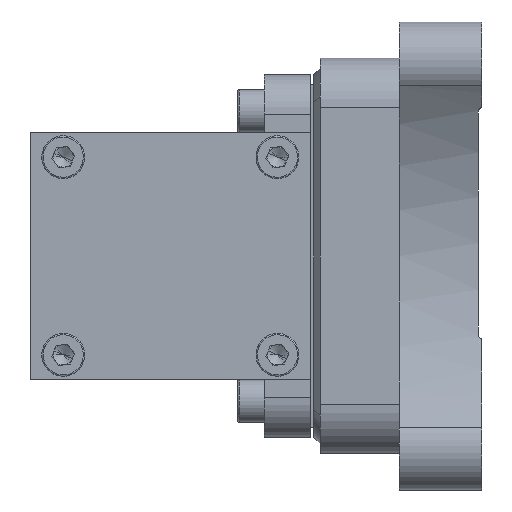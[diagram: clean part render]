
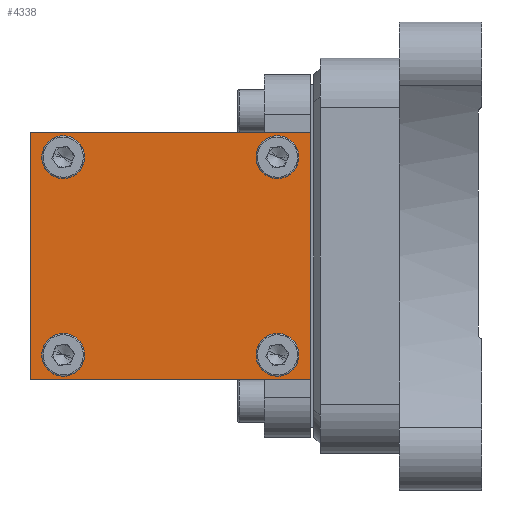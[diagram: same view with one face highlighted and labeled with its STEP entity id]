
A CAD part, left-side view. The second image highlights one B-rep face of the part: STEP entity #4338.
In plain terms, the highlighted planar face has unit normal (-1, 0, 0) as drawn and (1, 0, 0) by its records, which use the part's own axes.
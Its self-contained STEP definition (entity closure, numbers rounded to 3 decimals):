
#39 = VECTOR ( 'NONE', #5715, 1000. ) ;
#42 = ORIENTED_EDGE ( 'NONE', *, *, #2448, .F. ) ;
#253 = CIRCLE ( 'NONE', #10057, 4. ) ;
#282 = DIRECTION ( 'NONE',  ( 0., 1., 0. ) ) ;
#384 = VERTEX_POINT ( 'NONE', #9535 ) ;
#594 = AXIS2_PLACEMENT_3D ( 'NONE', #5221, #5087, #7402 ) ;
#683 = DIRECTION ( 'NONE',  ( 0., 0., -1. ) ) ;
#713 = CARTESIAN_POINT ( 'NONE',  ( 93., 11., -30. ) ) ;
#766 = DIRECTION ( 'NONE',  ( 0., 0., -1. ) ) ;
#859 = AXIS2_PLACEMENT_3D ( 'NONE', #4749, #5516, #2352 ) ;
#907 = VERTEX_POINT ( 'NONE', #9869 ) ;
#929 = DIRECTION ( 'NONE',  ( 1., 0., 0. ) ) ;
#976 = DIRECTION ( 'NONE',  ( 1., 0., 0. ) ) ;
#1036 = DIRECTION ( 'NONE',  ( 0., 0., 1. ) ) ;
#1077 = PLANE ( 'NONE',  #4122 ) ;
#1131 = VERTEX_POINT ( 'NONE', #9897 ) ;
#1200 = CARTESIAN_POINT ( 'NONE',  ( 93., 76., 30. ) ) ;
#1228 = ORIENTED_EDGE ( 'NONE', *, *, #5591, .T. ) ;
#1292 = CIRCLE ( 'NONE', #4908, 4. ) ;
#1493 = ORIENTED_EDGE ( 'NONE', *, *, #5817, .T. ) ;
#1591 = EDGE_CURVE ( 'NONE', #8837, #1131, #5179, .T. ) ;
#1632 = CARTESIAN_POINT ( 'NONE',  ( 93., 11., 30. ) ) ;
#1645 = ORIENTED_EDGE ( 'NONE', *, *, #8665, .F. ) ;
#1711 = CARTESIAN_POINT ( 'NONE',  ( 93., 76., 26. ) ) ;
#1748 = DIRECTION ( 'NONE',  ( 0., 0., -1. ) ) ;
#1782 = ORIENTED_EDGE ( 'NONE', *, *, #1591, .F. ) ;
#1784 = VERTEX_POINT ( 'NONE', #4252 ) ;
#1910 = LINE ( 'NONE', #6219, #10094 ) ;
#1945 = DIRECTION ( 'NONE',  ( 0., 0., -1. ) ) ;
#1981 = CARTESIAN_POINT ( 'NONE',  ( 93., 76., -30. ) ) ;
#2051 = EDGE_CURVE ( 'NONE', #384, #8697, #2655, .T. ) ;
#2105 = VERTEX_POINT ( 'NONE', #5365 ) ;
#2196 = CARTESIAN_POINT ( 'NONE',  ( 93., 86., 37.5 ) ) ;
#2352 = DIRECTION ( 'NONE',  ( 0., 0., -1. ) ) ;
#2362 = CARTESIAN_POINT ( 'NONE',  ( 93., 76., -26. ) ) ;
#2448 = EDGE_CURVE ( 'NONE', #10093, #907, #1910, .T. ) ;
#2559 = FACE_BOUND ( 'NONE', #9068, .T. ) ;
#2655 = CIRCLE ( 'NONE', #6658, 4. ) ;
#2750 = EDGE_CURVE ( 'NONE', #2995, #2105, #3255, .T. ) ;
#2799 = EDGE_CURVE ( 'NONE', #8112, #1784, #1292, .T. ) ;
#2803 = AXIS2_PLACEMENT_3D ( 'NONE', #1200, #3547, #1945 ) ;
#2843 = ORIENTED_EDGE ( 'NONE', *, *, #7724, .F. ) ;
#2995 = VERTEX_POINT ( 'NONE', #1711 ) ;
#3255 = CIRCLE ( 'NONE', #2803, 4. ) ;
#3338 = CARTESIAN_POINT ( 'NONE',  ( 93., 11., 26. ) ) ;
#3547 = DIRECTION ( 'NONE',  ( 1., 0., 0. ) ) ;
#3581 = VERTEX_POINT ( 'NONE', #10031 ) ;
#3639 = FACE_BOUND ( 'NONE', #5178, .T. ) ;
#3841 = EDGE_CURVE ( 'NONE', #1784, #8112, #6417, .T. ) ;
#3885 = CARTESIAN_POINT ( 'NONE',  ( 93., 76., -30. ) ) ;
#3920 = EDGE_LOOP ( 'NONE', ( #8251, #5769 ) ) ;
#4122 = AXIS2_PLACEMENT_3D ( 'NONE', #8064, #7189, #1036 ) ;
#4183 = ORIENTED_EDGE ( 'NONE', *, *, #2799, .F. ) ;
#4199 = VECTOR ( 'NONE', #282, 1000. ) ;
#4252 = CARTESIAN_POINT ( 'NONE',  ( 93., 76., -34. ) ) ;
#4338 = ADVANCED_FACE ( 'NONE', ( #8411, #2559, #3639, #5714, #6334 ), #1077, .F. ) ;
#4374 = CIRCLE ( 'NONE', #859, 4. ) ;
#4624 = DIRECTION ( 'NONE',  ( 1., 0., 0. ) ) ;
#4749 = CARTESIAN_POINT ( 'NONE',  ( 93., 11., -30. ) ) ;
#4908 = AXIS2_PLACEMENT_3D ( 'NONE', #1981, #976, #1748 ) ;
#5021 = CARTESIAN_POINT ( 'NONE',  ( 93., 1., 37.5 ) ) ;
#5042 = EDGE_LOOP ( 'NONE', ( #5873, #2843 ) ) ;
#5087 = DIRECTION ( 'NONE',  ( 1., 0., 0. ) ) ;
#5122 = VERTEX_POINT ( 'NONE', #7478 ) ;
#5178 = EDGE_LOOP ( 'NONE', ( #8769, #4183 ) ) ;
#5179 = CIRCLE ( 'NONE', #7241, 4. ) ;
#5221 = CARTESIAN_POINT ( 'NONE',  ( 93., 76., 30. ) ) ;
#5365 = CARTESIAN_POINT ( 'NONE',  ( 93., 76., 34. ) ) ;
#5516 = DIRECTION ( 'NONE',  ( 1., 0., 0. ) ) ;
#5591 = EDGE_CURVE ( 'NONE', #5122, #3581, #8603, .T. ) ;
#5714 = FACE_BOUND ( 'NONE', #5042, .T. ) ;
#5715 = DIRECTION ( 'NONE',  ( 0., 0., -1. ) ) ;
#5721 = CARTESIAN_POINT ( 'NONE',  ( 93., 11., 30. ) ) ;
#5769 = ORIENTED_EDGE ( 'NONE', *, *, #2051, .F. ) ;
#5817 = EDGE_CURVE ( 'NONE', #3581, #907, #7502, .T. ) ;
#5873 = ORIENTED_EDGE ( 'NONE', *, *, #2750, .F. ) ;
#5913 = DIRECTION ( 'NONE',  ( 0., 1., 0. ) ) ;
#6217 = EDGE_CURVE ( 'NONE', #5122, #10093, #7256, .T. ) ;
#6219 = CARTESIAN_POINT ( 'NONE',  ( 93., 86., 37.5 ) ) ;
#6334 = FACE_OUTER_BOUND ( 'NONE', #8456, .T. ) ;
#6337 = CARTESIAN_POINT ( 'NONE',  ( 93., 11., -34. ) ) ;
#6417 = CIRCLE ( 'NONE', #7644, 4. ) ;
#6658 = AXIS2_PLACEMENT_3D ( 'NONE', #713, #4624, #8641 ) ;
#6711 = CARTESIAN_POINT ( 'NONE',  ( 93., 86., -37.5 ) ) ;
#7080 = DIRECTION ( 'NONE',  ( 0., 0., -1. ) ) ;
#7189 = DIRECTION ( 'NONE',  ( -1., 0., 0. ) ) ;
#7216 = DIRECTION ( 'NONE',  ( 0., 0., -1. ) ) ;
#7241 = AXIS2_PLACEMENT_3D ( 'NONE', #5721, #9597, #7216 ) ;
#7256 = LINE ( 'NONE', #8717, #4199 ) ;
#7402 = DIRECTION ( 'NONE',  ( 0., 0., -1. ) ) ;
#7478 = CARTESIAN_POINT ( 'NONE',  ( 93., 1., 37.5 ) ) ;
#7502 = LINE ( 'NONE', #6711, #7997 ) ;
#7644 = AXIS2_PLACEMENT_3D ( 'NONE', #3885, #9350, #683 ) ;
#7724 = EDGE_CURVE ( 'NONE', #2105, #2995, #9187, .T. ) ;
#7997 = VECTOR ( 'NONE', #5913, 1000. ) ;
#8064 = CARTESIAN_POINT ( 'NONE',  ( 93., 86., 37.5 ) ) ;
#8112 = VERTEX_POINT ( 'NONE', #2362 ) ;
#8251 = ORIENTED_EDGE ( 'NONE', *, *, #9764, .F. ) ;
#8411 = FACE_BOUND ( 'NONE', #3920, .T. ) ;
#8456 = EDGE_LOOP ( 'NONE', ( #1493, #42, #8598, #1228 ) ) ;
#8598 = ORIENTED_EDGE ( 'NONE', *, *, #6217, .F. ) ;
#8603 = LINE ( 'NONE', #5021, #39 ) ;
#8641 = DIRECTION ( 'NONE',  ( 0., 0., -1. ) ) ;
#8665 = EDGE_CURVE ( 'NONE', #1131, #8837, #253, .T. ) ;
#8697 = VERTEX_POINT ( 'NONE', #6337 ) ;
#8717 = CARTESIAN_POINT ( 'NONE',  ( 93., 86., 37.5 ) ) ;
#8769 = ORIENTED_EDGE ( 'NONE', *, *, #3841, .F. ) ;
#8837 = VERTEX_POINT ( 'NONE', #3338 ) ;
#9068 = EDGE_LOOP ( 'NONE', ( #1782, #1645 ) ) ;
#9187 = CIRCLE ( 'NONE', #594, 4. ) ;
#9350 = DIRECTION ( 'NONE',  ( 1., 0., 0. ) ) ;
#9535 = CARTESIAN_POINT ( 'NONE',  ( 93., 11., -26. ) ) ;
#9597 = DIRECTION ( 'NONE',  ( 1., 0., 0. ) ) ;
#9764 = EDGE_CURVE ( 'NONE', #8697, #384, #4374, .T. ) ;
#9869 = CARTESIAN_POINT ( 'NONE',  ( 93., 86., -37.5 ) ) ;
#9897 = CARTESIAN_POINT ( 'NONE',  ( 93., 11., 34. ) ) ;
#10031 = CARTESIAN_POINT ( 'NONE',  ( 93., 1., -37.5 ) ) ;
#10057 = AXIS2_PLACEMENT_3D ( 'NONE', #1632, #929, #7080 ) ;
#10093 = VERTEX_POINT ( 'NONE', #2196 ) ;
#10094 = VECTOR ( 'NONE', #766, 1000. ) ;
